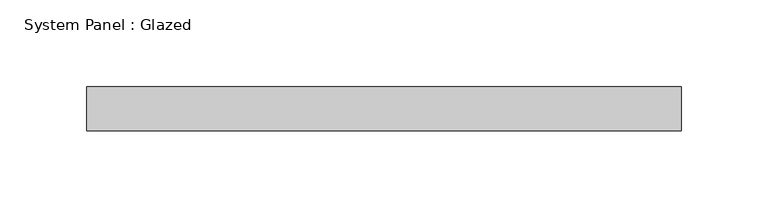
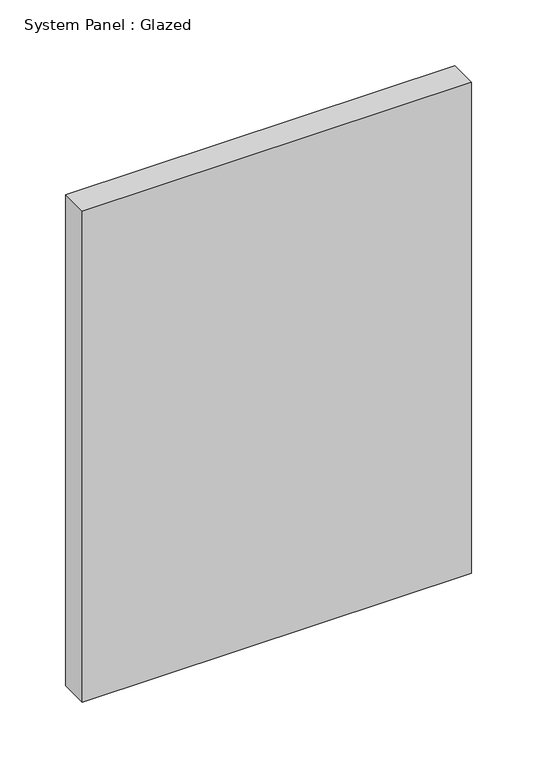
"""IFC4 building model written with IfcOpenShell, lengths in millimetres: plate geometry, System Panel : Glazed."""

from ifc_helpers import new_model, si_unit, origin, origin_with_axes, place, context, project, spatial, polyline, outline, extrude, source, transform, mapped, element, save


def system_panel_glazed_fc65e113(model_context):
    return source(origin(), model_context, "Body", "SweptSolid", [
        extrude(outline(polyline([(171.4499998, -44.45), (-171.4499998, -44.45), (-171.4499998, -19.05), (171.4499998, -19.05), (171.4499998, -44.45)])), origin_with_axes(), (0.0, 0.0, 1.0), 457.2),
    ])


if __name__ == "__main__":
    model = new_model("IFC4")
    model_context = context("Model", 3, world=origin())
    ifc_project = project(units=[si_unit("LENGTHUNIT", "METRE", prefix="MILLI")], contexts=[model_context])
    site = spatial("IfcSite", under=ifc_project)
    building = spatial("IfcBuilding", under=site)
    placement = place(None, origin())
    system_panel_glazed_shape = system_panel_glazed_fc65e113(model_context)
    element("IfcPlate", 1, ObjectType="System Panel : Glazed", at=placement, inside=building, context=model_context, shape_type="MappedRepresentation", body=[
        mapped(system_panel_glazed_shape, transform((0.0, 0.0, 0.0), x_axis=(1.0, 0.0, 0.0), y_axis=(0.0, 1.0, 0.0), z_axis=(0.0, 0.0, 1.0))),
    ])
    save(model, "model.ifc")
